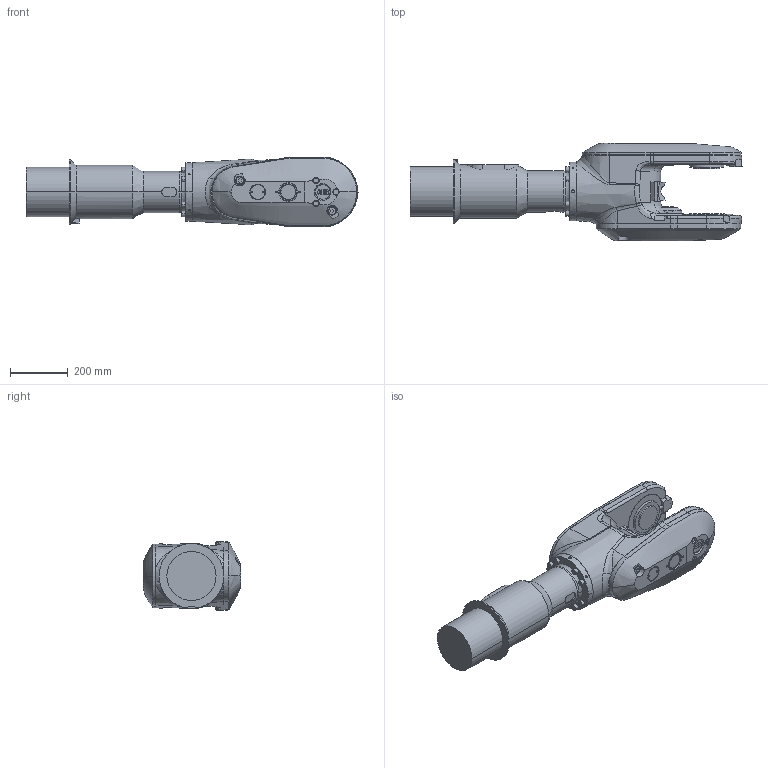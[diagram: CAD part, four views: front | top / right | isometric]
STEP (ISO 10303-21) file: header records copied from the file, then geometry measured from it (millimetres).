
FILE_DESCRIPTION (( 'STEP AP214' ), '1' );
FILE_NAME ('IRB5710-LID_90kg-230_OmniCore_rev00_LINK04_CAD.step', '2025-07-07T14:15:03', ( '' ), ( '' ), 'SwSTEP 2.0', 'SolidWorks 2024', '' );
FILE_SCHEMA (( 'AUTOMOTIVE_DESIGN' ));
Length unit declared in the file: millimetre
Products named in the file (1): IRB5710-LID_90kg-230_OmniCore_rev00_LINK04_CAD
Bounding box: 1147.45 x 337.5 x 241.31 mm (x, y, z)
Volume: 37268448.1 mm3; surface area: 1036435.3 mm2
Topology: 1 solids, 1 shells, 715 faces, 1803 edges, 1146 vertices
Faces by surface type: plane 360, cylinder 170, cone 101, bspline 59, torus 25
Entity records: 37194 total; most frequent: CARTESIAN_POINT 19416, ORIENTED_EDGE 3574, DIRECTION 3054, EDGE_CURVE 1787, VERTEX_POINT 1146, AXIS2_PLACEMENT_3D 1041, VECTOR 972, LINE 972
